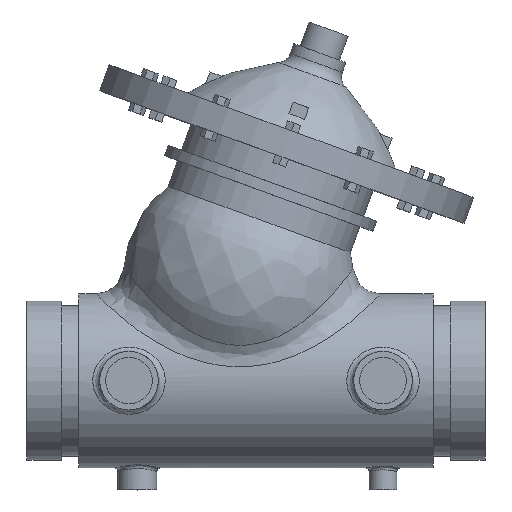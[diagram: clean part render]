
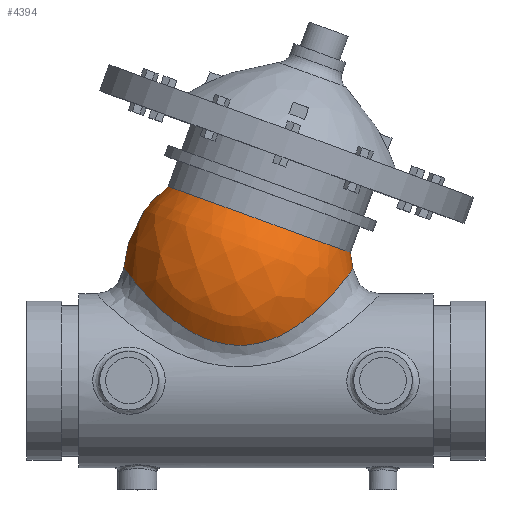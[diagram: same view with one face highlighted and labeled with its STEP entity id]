
A CAD part, top view. The second image highlights one B-rep face of the part: STEP entity #4394.
In plain terms, the highlighted free-form (B-spline) face has degree [2, 2] with [3, 9] control points.
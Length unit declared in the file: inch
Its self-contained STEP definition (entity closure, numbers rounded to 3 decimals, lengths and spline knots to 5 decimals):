
#252=(
BOUNDED_CURVE()
B_SPLINE_CURVE(2,(#6507,#6508,#6509),.UNSPECIFIED.,.F.,.F.)
B_SPLINE_CURVE_WITH_KNOTS((3,3),(-0.58028,0.67471),
 .UNSPECIFIED.)
CURVE()
GEOMETRIC_REPRESENTATION_ITEM()
RATIONAL_B_SPLINE_CURVE((1.,0.809,0.998))
REPRESENTATION_ITEM('')
);
#255=(
BOUNDED_SURFACE()
B_SPLINE_SURFACE(2,2,((#6475,#6476,#6477,#6478,#6479,#6480,#6481,#6482,
#6483),(#6484,#6485,#6486,#6487,#6488,#6489,#6490,#6491,#6492),(#6493,#6494,
#6495,#6496,#6497,#6498,#6499,#6500,#6501)),.UNSPECIFIED.,.F.,.T.,.F.)
B_SPLINE_SURFACE_WITH_KNOTS((3,3),(3,2,2,2,3),(-0.68038,0.58028),
(-3.14159,-1.5708,0.,1.5708,3.14159),
 .UNSPECIFIED.)
GEOMETRIC_REPRESENTATION_ITEM()
RATIONAL_B_SPLINE_SURFACE(((1.,0.707,1.,0.707,1.,
0.707,1.,0.707,1.),(0.808,0.571,
0.808,0.571,0.808,0.571,0.808,
0.571,0.808),(1.,0.707,1.,0.707,
1.,0.707,1.,0.707,1.)))
REPRESENTATION_ITEM('')
SURFACE()
);
#1288=FACE_OUTER_BOUND('',#1531,.T.);
#1531=EDGE_LOOP('',(#2967,#2968,#2969,#2970,#2971,#2972,#2973));
#1809=B_SPLINE_CURVE_WITH_KNOTS('',3,(#6268,#6269,#6270,#6271,#6272,#6273,
#6274,#6275,#6276,#6277,#6278,#6279,#6280,#6281,#6282,#6283,#6284,#6285,
#6286,#6287,#6288,#6289,#6290),.UNSPECIFIED.,.F.,.F.,(4,1,1,1,1,1,1,1,1,
1,1,1,1,1,1,1,1,1,1,1,4),(0.,1.12885,2.25769,3.38654,
4.51539,6.02051,7.52564,9.03077,10.5359,
11.28846,12.04103,13.54616,15.05129,16.55641,
18.06154,19.56667,21.0718,22.57693,24.08206,
25.58719,26.31378),.UNSPECIFIED.);
#1810=B_SPLINE_CURVE_WITH_KNOTS('',3,(#6291,#6292,#6293,#6294,#6295,#6296,
#6297,#6298),.UNSPECIFIED.,.F.,.F.,(4,1,1,1,1,4),(26.31378,27.09231,
28.22116,29.35001,30.47885,31.6077),
 .UNSPECIFIED.);
#1852=CIRCLE('',#4656,1.75);
#1853=CIRCLE('',#4657,1.75);
#1854=CIRCLE('',#4658,1.75);
#1929=VERTEX_POINT('',#6265);
#1930=VERTEX_POINT('',#6267);
#1945=VERTEX_POINT('',#6502);
#1946=VERTEX_POINT('',#6503);
#1947=VERTEX_POINT('',#6505);
#2340=EDGE_CURVE('',#1929,#1930,#1809,.T.);
#2341=EDGE_CURVE('',#1930,#1929,#1810,.T.);
#2360=EDGE_CURVE('',#1945,#1946,#1852,.T.);
#2361=EDGE_CURVE('',#1947,#1945,#1853,.T.);
#2362=EDGE_CURVE('',#1947,#1930,#252,.T.);
#2363=EDGE_CURVE('',#1946,#1947,#1854,.T.);
#2967=ORIENTED_EDGE('',*,*,#2360,.F.);
#2968=ORIENTED_EDGE('',*,*,#2361,.F.);
#2969=ORIENTED_EDGE('',*,*,#2362,.T.);
#2970=ORIENTED_EDGE('',*,*,#2340,.F.);
#2971=ORIENTED_EDGE('',*,*,#2341,.F.);
#2972=ORIENTED_EDGE('',*,*,#2362,.F.);
#2973=ORIENTED_EDGE('',*,*,#2363,.F.);
#4394=ADVANCED_FACE('',(#1288),#255,.F.);
#4656=AXIS2_PLACEMENT_3D('',#6504,#4990,#4991);
#4657=AXIS2_PLACEMENT_3D('',#6506,#4992,#4993);
#4658=AXIS2_PLACEMENT_3D('',#6510,#4994,#4995);
#4990=DIRECTION('center_axis',(0.342,0.94,0.));
#4991=DIRECTION('ref_axis',(0.94,-0.342,0.));
#4992=DIRECTION('center_axis',(0.342,0.94,0.));
#4993=DIRECTION('ref_axis',(0.94,-0.342,0.));
#4994=DIRECTION('center_axis',(0.342,0.94,0.));
#4995=DIRECTION('ref_axis',(0.94,-0.342,0.));
#6265=CARTESIAN_POINT('',(1.25129,1.42665,-1.28586));
#6267=CARTESIAN_POINT('',(-0.74385,0.70352,-1.63875));
#6268=CARTESIAN_POINT('Ctrl Pts',(1.25129,1.42665,-1.28586));
#6269=CARTESIAN_POINT('Ctrl Pts',(1.34862,1.52716,-1.20204));
#6270=CARTESIAN_POINT('Ctrl Pts',(1.51889,1.72253,-0.99831));
#6271=CARTESIAN_POINT('Ctrl Pts',(1.68993,1.94503,-0.58776));
#6272=CARTESIAN_POINT('Ctrl Pts',(1.76379,2.0474,-0.1047));
#6273=CARTESIAN_POINT('Ctrl Pts',(1.72968,1.99993,0.44859));
#6274=CARTESIAN_POINT('Ctrl Pts',(1.54753,1.75425,0.98219));
#6275=CARTESIAN_POINT('Ctrl Pts',(1.19641,1.35154,1.37745));
#6276=CARTESIAN_POINT('Ctrl Pts',(0.72063,0.94284,1.58224));
#6277=CARTESIAN_POINT('Ctrl Pts',(0.22735,0.70015,1.63816));
#6278=CARTESIAN_POINT('Ctrl Pts',(-0.20569,0.62936,
1.65103));
#6279=CARTESIAN_POINT('Ctrl Pts',(-0.64524,0.6511,1.64851));
#6280=CARTESIAN_POINT('Ctrl Pts',(-1.16596,0.84611,1.61463));
#6281=CARTESIAN_POINT('Ctrl Pts',(-1.68302,1.23133,1.45871));
#6282=CARTESIAN_POINT('Ctrl Pts',(-2.08159,1.64677,1.12566));
#6283=CARTESIAN_POINT('Ctrl Pts',(-2.33737,1.97124,0.5979));
#6284=CARTESIAN_POINT('Ctrl Pts',(-2.41629,2.08033,-0.06434));
#6285=CARTESIAN_POINT('Ctrl Pts',(-2.3017,1.92325,-0.71071));
#6286=CARTESIAN_POINT('Ctrl Pts',(-2.01656,1.57151,-1.20346));
#6287=CARTESIAN_POINT('Ctrl Pts',(-1.59432,1.15321,-1.50024));
#6288=CARTESIAN_POINT('Ctrl Pts',(-1.14881,0.84971,-1.60659));
#6289=CARTESIAN_POINT('Ctrl Pts',(-0.84512,0.7328,-1.63301));
#6290=CARTESIAN_POINT('Ctrl Pts',(-0.74373,0.70359,
-1.6388));
#6291=CARTESIAN_POINT('Ctrl Pts',(-0.74373,0.70359,
-1.6388));
#6292=CARTESIAN_POINT('Ctrl Pts',(-0.63509,0.67229,
-1.64501));
#6293=CARTESIAN_POINT('Ctrl Pts',(-0.36182,0.62051,
-1.65233));
#6294=CARTESIAN_POINT('Ctrl Pts',(0.08363,0.65906,-1.64643));
#6295=CARTESIAN_POINT('Ctrl Pts',(0.53957,0.84479,-1.60604));
#6296=CARTESIAN_POINT('Ctrl Pts',(0.93498,1.11955,-1.50132));
#6297=CARTESIAN_POINT('Ctrl Pts',(1.15397,1.32615,-1.36969));
#6298=CARTESIAN_POINT('Ctrl Pts',(1.25129,1.42665,-1.28586));
#6475=CARTESIAN_POINT('Ctrl Pts',(-0.74679,0.69568,
-1.63205));
#6476=CARTESIAN_POINT('Ctrl Pts',(-2.28042,1.25387,-1.63205));
#6477=CARTESIAN_POINT('Ctrl Pts',(-2.28042,1.25387,0.));
#6478=CARTESIAN_POINT('Ctrl Pts',(-2.28042,1.25387,1.63205));
#6479=CARTESIAN_POINT('Ctrl Pts',(-0.74679,0.69568,
1.63205));
#6480=CARTESIAN_POINT('Ctrl Pts',(0.78683,0.13748,1.63205));
#6481=CARTESIAN_POINT('Ctrl Pts',(0.78683,0.13748,0.));
#6482=CARTESIAN_POINT('Ctrl Pts',(0.78683,0.13748,-1.63205));
#6483=CARTESIAN_POINT('Ctrl Pts',(-0.74679,0.69568,
-1.63205));
#6484=CARTESIAN_POINT('Ctrl Pts',(-0.35883,1.76159,-2.55004));
#6485=CARTESIAN_POINT('Ctrl Pts',(-2.75509,2.63375,-2.55004));
#6486=CARTESIAN_POINT('Ctrl Pts',(-2.75509,2.63375,0.));
#6487=CARTESIAN_POINT('Ctrl Pts',(-2.75509,2.63375,2.55004));
#6488=CARTESIAN_POINT('Ctrl Pts',(-0.35883,1.76159,2.55004));
#6489=CARTESIAN_POINT('Ctrl Pts',(2.03742,0.88942,2.55004));
#6490=CARTESIAN_POINT('Ctrl Pts',(2.03742,0.88942,0.));
#6491=CARTESIAN_POINT('Ctrl Pts',(2.03742,0.88942,-2.55004));
#6492=CARTESIAN_POINT('Ctrl Pts',(-0.35883,1.76159,-2.55004));
#6493=CARTESIAN_POINT('Ctrl Pts',(0.05856,2.90837,-1.75));
#6494=CARTESIAN_POINT('Ctrl Pts',(-1.5859,3.5069,-1.75));
#6495=CARTESIAN_POINT('Ctrl Pts',(-1.5859,3.5069,0.));
#6496=CARTESIAN_POINT('Ctrl Pts',(-1.5859,3.5069,1.75));
#6497=CARTESIAN_POINT('Ctrl Pts',(0.05856,2.90837,1.75));
#6498=CARTESIAN_POINT('Ctrl Pts',(1.70302,2.30983,1.75));
#6499=CARTESIAN_POINT('Ctrl Pts',(1.70302,2.30983,0.));
#6500=CARTESIAN_POINT('Ctrl Pts',(1.70302,2.30983,-1.75));
#6501=CARTESIAN_POINT('Ctrl Pts',(0.05856,2.90837,-1.75));
#6502=CARTESIAN_POINT('',(-1.5859,3.5069,0.));
#6503=CARTESIAN_POINT('',(1.70302,2.30983,0.));
#6504=CARTESIAN_POINT('Origin',(0.05856,2.90837,0.));
#6505=CARTESIAN_POINT('',(0.05856,2.90837,-1.75));
#6506=CARTESIAN_POINT('Origin',(0.05856,2.90837,0.));
#6507=CARTESIAN_POINT('Ctrl Pts',(0.05856,2.90837,-1.75));
#6508=CARTESIAN_POINT('Ctrl Pts',(-0.35651,1.76796,-2.5456));
#6509=CARTESIAN_POINT('Ctrl Pts',(-0.74397,0.70344,-1.6387));
#6510=CARTESIAN_POINT('Origin',(0.05856,2.90837,0.));
